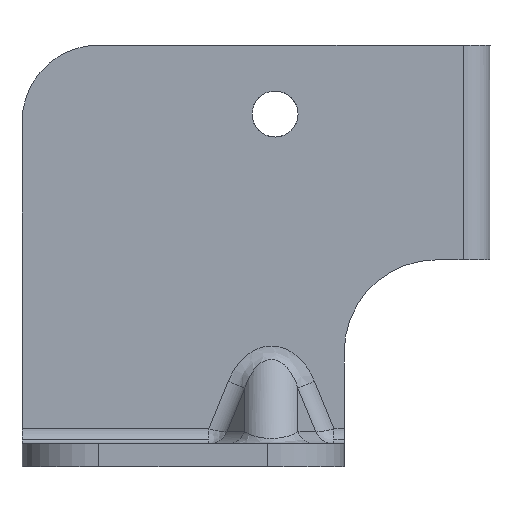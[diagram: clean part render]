
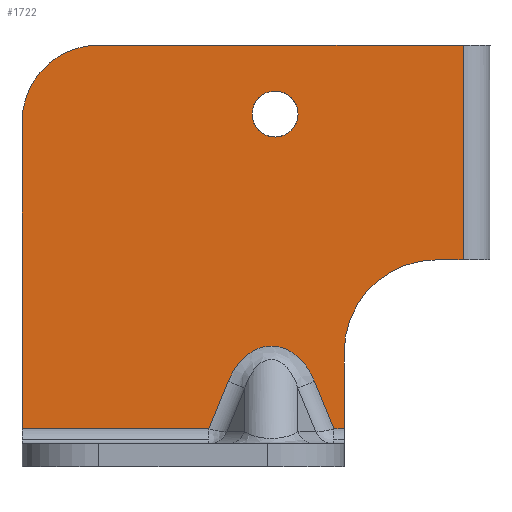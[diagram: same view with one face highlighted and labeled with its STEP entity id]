
A CAD part, left-side view. The second image highlights one B-rep face of the part: STEP entity #1722.
In plain terms, the highlighted planar face has unit normal (-1, 0, 0).
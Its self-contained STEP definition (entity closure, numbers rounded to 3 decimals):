
#1281=AXIS2_PLACEMENT_3D('Circle Axis2P3D',#1279,#1280,$) ;
#1450=AXIS2_PLACEMENT_3D('Circle Axis2P3D',#1448,#1449,$) ;
#1467=AXIS2_PLACEMENT_3D('Circle Axis2P3D',#1465,#1466,$) ;
#1498=AXIS2_PLACEMENT_3D('Circle Axis2P3D',#1496,#1497,$) ;
#1650=AXIS2_PLACEMENT_3D('Plane Axis2P3D',#1647,#1648,#1649) ;
#901=CARTESIAN_POINT('Vertex',(1031.999,-723.979,35.)) ;
#904=CARTESIAN_POINT('Line Origine',(1031.999,-723.979,30.)) ;
#908=CARTESIAN_POINT('Vertex',(1031.999,-723.979,25.)) ;
#1064=CARTESIAN_POINT('Vertex',(1031.999,-681.979,25.)) ;
#1067=CARTESIAN_POINT('Line Origine',(1031.999,-681.979,45.)) ;
#1071=CARTESIAN_POINT('Vertex',(1031.999,-681.979,65.)) ;
#1279=CARTESIAN_POINT('Axis2P3D Location',(1031.999,-735.979,35.)) ;
#1283=CARTESIAN_POINT('Vertex',(1031.999,-735.979,47.)) ;
#1335=CARTESIAN_POINT('Vertex',(1031.999,-739.479,47.)) ;
#1338=CARTESIAN_POINT('Line Origine',(1031.999,-737.729,47.)) ;
#1401=CARTESIAN_POINT('Vertex',(1031.999,-691.979,75.)) ;
#1404=CARTESIAN_POINT('Line Origine',(1031.999,-715.729,75.)) ;
#1408=CARTESIAN_POINT('Vertex',(1031.999,-739.479,75.)) ;
#1448=CARTESIAN_POINT('Axis2P3D Location',(1031.999,-691.979,65.)) ;
#1465=CARTESIAN_POINT('Axis2P3D Location',(1031.999,-714.96,66.)) ;
#1469=CARTESIAN_POINT('Vertex',(1031.999,-717.96,66.)) ;
#1471=CARTESIAN_POINT('Vertex',(1031.999,-711.96,66.)) ;
#1496=CARTESIAN_POINT('Axis2P3D Location',(1031.999,-714.96,66.)) ;
#1626=CARTESIAN_POINT('Line Origine',(1031.999,-584.979,25.)) ;
#1630=CARTESIAN_POINT('Vertex',(1031.999,-722.626,25.)) ;
#1647=CARTESIAN_POINT('Axis2P3D Location',(1031.999,-432.979,20.)) ;
#1652=CARTESIAN_POINT('Line Origine',(1031.999,-739.479,61.)) ;
#1657=CARTESIAN_POINT('Line Origine',(1031.999,-694.156,25.)) ;
#1661=CARTESIAN_POINT('Vertex',(1031.999,-706.333,25.)) ;
#1664=CARTESIAN_POINT('Line Origine',(1031.999,-707.591,28.083)) ;
#1668=CARTESIAN_POINT('Vertex',(1031.999,-708.85,31.167)) ;
#1672=CARTESIAN_POINT('Control Point',(1031.999,-708.85,31.167)) ;
#1673=CARTESIAN_POINT('Control Point',(1031.999,-709.163,31.932)) ;
#1674=CARTESIAN_POINT('Control Point',(1031.999,-709.55,32.668)) ;
#1675=CARTESIAN_POINT('Control Point',(1031.999,-710.016,33.362)) ;
#1676=CARTESIAN_POINT('Control Point',(1031.999,-710.945,34.414)) ;
#1677=CARTESIAN_POINT('Control Point',(1031.999,-712.118,35.182)) ;
#1678=CARTESIAN_POINT('Control Point',(1031.999,-712.625,35.431)) ;
#1679=CARTESIAN_POINT('Control Point',(1031.999,-713.567,35.737)) ;
#1680=CARTESIAN_POINT('Control Point',(1031.999,-714.554,35.791)) ;
#1681=CARTESIAN_POINT('Control Point',(1031.999,-714.977,35.765)) ;
#1682=CARTESIAN_POINT('Control Point',(1031.999,-715.97,35.586)) ;
#1683=CARTESIAN_POINT('Control Point',(1031.999,-716.886,35.164)) ;
#1684=CARTESIAN_POINT('Control Point',(1031.999,-717.377,34.849)) ;
#1685=CARTESIAN_POINT('Control Point',(1031.999,-718.262,34.126)) ;
#1686=CARTESIAN_POINT('Control Point',(1031.999,-718.982,33.249)) ;
#1687=CARTESIAN_POINT('Control Point',(1031.999,-719.298,32.787)) ;
#1688=CARTESIAN_POINT('Control Point',(1031.999,-719.648,32.183)) ;
#1689=CARTESIAN_POINT('Control Point',(1031.999,-719.943,31.553)) ;
#1690=CARTESIAN_POINT('Control Point',(1031.999,-720.001,31.425)) ;
#1691=CARTESIAN_POINT('Control Point',(1031.999,-720.056,31.296)) ;
#1692=CARTESIAN_POINT('Control Point',(1031.999,-720.109,31.167)) ;
#1693=CARTESIAN_POINT('Vertex',(1031.999,-720.109,31.167)) ;
#1697=CARTESIAN_POINT('Control Point',(1031.999,-722.626,25.)) ;
#1698=CARTESIAN_POINT('Control Point',(1031.999,-722.123,26.233)) ;
#1699=CARTESIAN_POINT('Control Point',(1031.999,-721.619,27.466)) ;
#1700=CARTESIAN_POINT('Control Point',(1031.999,-721.116,28.7)) ;
#1701=CARTESIAN_POINT('Control Point',(1031.999,-720.612,29.933)) ;
#1702=CARTESIAN_POINT('Control Point',(1031.999,-720.109,31.167)) ;
#905=DIRECTION('Vector Direction',(0.,0.,1.)) ;
#1068=DIRECTION('Vector Direction',(0.,0.,1.)) ;
#1280=DIRECTION('Axis2P3D Direction',(1.,0.,0.)) ;
#1339=DIRECTION('Vector Direction',(0.,-1.,0.)) ;
#1405=DIRECTION('Vector Direction',(0.,-1.,0.)) ;
#1449=DIRECTION('Axis2P3D Direction',(-1.,0.,0.)) ;
#1466=DIRECTION('Axis2P3D Direction',(1.,0.,0.)) ;
#1497=DIRECTION('Axis2P3D Direction',(1.,0.,0.)) ;
#1627=DIRECTION('Vector Direction',(0.,1.,0.)) ;
#1648=DIRECTION('Axis2P3D Direction',(-1.,0.,0.)) ;
#1649=DIRECTION('Axis2P3D XDirection',(0.,-1.,0.)) ;
#1653=DIRECTION('Vector Direction',(0.,0.,-1.)) ;
#1658=DIRECTION('Vector Direction',(0.,-1.,0.)) ;
#1665=DIRECTION('Vector Direction',(0.,-0.378,0.926)) ;
#906=VECTOR('Line Direction',#905,1.) ;
#1069=VECTOR('Line Direction',#1068,1.) ;
#1340=VECTOR('Line Direction',#1339,1.) ;
#1406=VECTOR('Line Direction',#1405,1.) ;
#1628=VECTOR('Line Direction',#1627,1.) ;
#1654=VECTOR('Line Direction',#1653,1.) ;
#1659=VECTOR('Line Direction',#1658,1.) ;
#1666=VECTOR('Line Direction',#1665,1.) ;
#1705=ORIENTED_EDGE('',*,*,#1285,.F.) ;
#1706=ORIENTED_EDGE('',*,*,#1342,.T.) ;
#1707=ORIENTED_EDGE('',*,*,#1656,.F.) ;
#1708=ORIENTED_EDGE('',*,*,#1410,.T.) ;
#1709=ORIENTED_EDGE('',*,*,#1452,.T.) ;
#1710=ORIENTED_EDGE('',*,*,#1073,.T.) ;
#1711=ORIENTED_EDGE('',*,*,#1663,.F.) ;
#1712=ORIENTED_EDGE('',*,*,#1670,.T.) ;
#1713=ORIENTED_EDGE('',*,*,#1695,.T.) ;
#1714=ORIENTED_EDGE('',*,*,#1703,.T.) ;
#1715=ORIENTED_EDGE('',*,*,#1632,.T.) ;
#1716=ORIENTED_EDGE('',*,*,#910,.T.) ;
#1719=ORIENTED_EDGE('',*,*,#1500,.F.) ;
#1720=ORIENTED_EDGE('',*,*,#1473,.F.) ;
#1721=FACE_BOUND('',#1718,.T.) ;
#1722=ADVANCED_FACE('interfacebiao1.2\\\X2\51E04F554F53\X0\.79.2',(#1717,#1721),#1651,.T.) ;
#1671=B_SPLINE_CURVE_WITH_KNOTS('',5,(#1672,#1673,#1674,#1675,#1676,#1677,#1678,#1679,#1680,#1681,#1682,#1683,#1684,#1685,#1686,#1687,#1688,#1689,#1690,#1691,#1692),.UNSPECIFIED.,.F.,.U.,(6,3,3,3,3,3,6),(0.,5.923,9.848,12.803,16.878,20.85,21.853),.UNSPECIFIED.) ;
#1696=B_SPLINE_CURVE_WITH_KNOTS('',5,(#1697,#1698,#1699,#1700,#1701,#1702),.UNSPECIFIED.,.F.,.U.,(6,6),(0.,9.42),.UNSPECIFIED.) ;
#1282=CIRCLE('generated circle',#1281,12.) ;
#1451=CIRCLE('generated circle',#1450,10.) ;
#1468=CIRCLE('generated circle',#1467,3.) ;
#1499=CIRCLE('generated circle',#1498,3.) ;
#910=EDGE_CURVE('',#909,#902,#907,.T.) ;
#1073=EDGE_CURVE('',#1072,#1065,#1070,.F.) ;
#1285=EDGE_CURVE('',#1284,#902,#1282,.F.) ;
#1342=EDGE_CURVE('',#1284,#1336,#1341,.T.) ;
#1410=EDGE_CURVE('',#1409,#1402,#1407,.F.) ;
#1452=EDGE_CURVE('',#1402,#1072,#1451,.T.) ;
#1473=EDGE_CURVE('',#1470,#1472,#1468,.F.) ;
#1500=EDGE_CURVE('',#1472,#1470,#1499,.F.) ;
#1632=EDGE_CURVE('',#1631,#909,#1629,.F.) ;
#1656=EDGE_CURVE('',#1409,#1336,#1655,.T.) ;
#1663=EDGE_CURVE('',#1662,#1065,#1660,.F.) ;
#1670=EDGE_CURVE('',#1662,#1669,#1667,.T.) ;
#1695=EDGE_CURVE('',#1669,#1694,#1671,.T.) ;
#1703=EDGE_CURVE('',#1694,#1631,#1696,.F.) ;
#1704=EDGE_LOOP('',(#1705,#1706,#1707,#1708,#1709,#1710,#1711,#1712,#1713,#1714,#1715,#1716)) ;
#1718=EDGE_LOOP('',(#1719,#1720)) ;
#1717=FACE_OUTER_BOUND('',#1704,.T.) ;
#907=LINE('Line',#904,#906) ;
#1070=LINE('Line',#1067,#1069) ;
#1341=LINE('Line',#1338,#1340) ;
#1407=LINE('Line',#1404,#1406) ;
#1629=LINE('Line',#1626,#1628) ;
#1655=LINE('Line',#1652,#1654) ;
#1660=LINE('Line',#1657,#1659) ;
#1667=LINE('Line',#1664,#1666) ;
#1651=PLANE('Plane',#1650) ;
#902=VERTEX_POINT('',#901) ;
#909=VERTEX_POINT('',#908) ;
#1065=VERTEX_POINT('',#1064) ;
#1072=VERTEX_POINT('',#1071) ;
#1284=VERTEX_POINT('',#1283) ;
#1336=VERTEX_POINT('',#1335) ;
#1402=VERTEX_POINT('',#1401) ;
#1409=VERTEX_POINT('',#1408) ;
#1470=VERTEX_POINT('',#1469) ;
#1472=VERTEX_POINT('',#1471) ;
#1631=VERTEX_POINT('',#1630) ;
#1662=VERTEX_POINT('',#1661) ;
#1669=VERTEX_POINT('',#1668) ;
#1694=VERTEX_POINT('',#1693) ;
